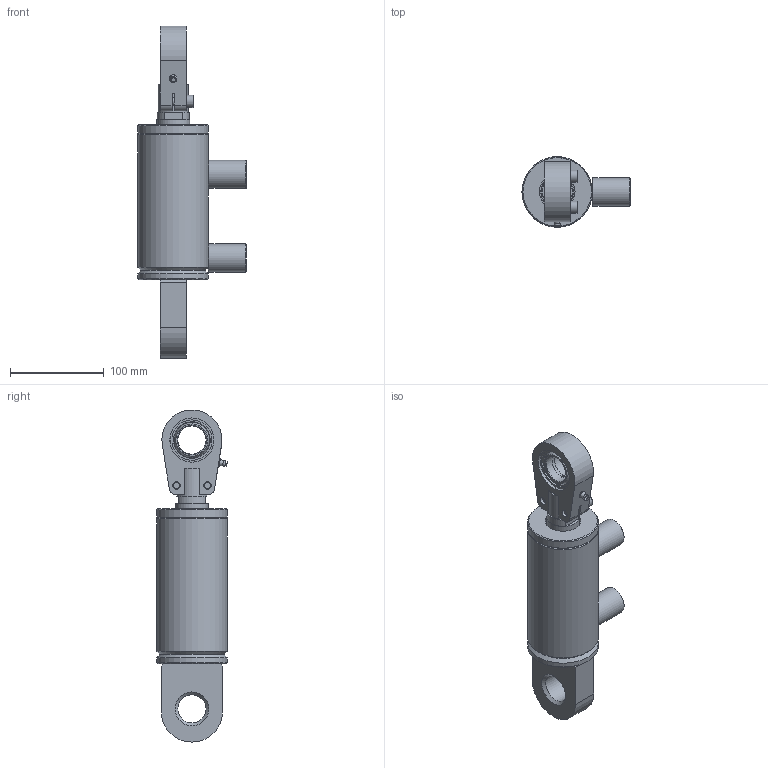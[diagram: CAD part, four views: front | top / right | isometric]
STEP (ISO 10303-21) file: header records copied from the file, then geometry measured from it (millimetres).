
FILE_DESCRIPTION(/* description */ (''),/* implementation_level */ '2;1');
FILE_NAME(/* name */ 'HC_A_63_35_50_OAMB.step',/* time_stamp */ '2023-06-11T19:50:20+03:00',/* author */ (''),/* organization */ (''),/* preprocessor_version */ 'ST-DEVELOPER v19.2',/* originating_system */ 'Autodesk Translation Framework v12.6.0.85',/* authorisation */ '');
FILE_SCHEMA (('AUTOMOTIVE_DESIGN { 1 0 10303 214 3 1 1 }'));
Length unit declared in the file: millimetre
Products named in the file (17): HC_A_63_35_50_ÖAMB_WEB; TAK_63_75; Ø63 x Ø75_HON_BORU__WEB; Bileşen1; Manşon_1_2; RMK_30; Ø35_K_MİL_WEB; Bileşen1_1; TDK_63_35; Bileşen1_2; RMV_30_GÜNCEL; inafag_gihrk30-do_aql6xce6znqv71fe0ns6e5y9m_01; inafag_gihrk30-do_aql6xce6znqv71fe0ns6e5y9m_02; inafag_gihrk30-do_aql6xce6znqv71fe0ns6e5y9m_03; inafag_gihrk30-do_aql6xce6znqv71fe0ns6e5y9m_04; inafag_gihrk30-do_aql6xce6znqv71fe0ns6e5y9m_05; inafag_gihrk30-do_aql6xce6znqv71fe0ns6e5y9m_06
Assembly tree (17 placements, depth 3):
  HC_A_63_35_50_ÖAMB_WEB
    TAK_63_75
    Ø63 x Ø75_HON_BORU__WEB
      Bileşen1
    Manşon_1_2  x2
    RMK_30
    Ø35_K_MİL_WEB
      Bileşen1_1
    TDK_63_35
      Bileşen1_2
    RMV_30_GÜNCEL
      inafag_gihrk30-do_aql6xce6znqv71fe0ns6e5y9m_01
      inafag_gihrk30-do_aql6xce6znqv71fe0ns6e5y9m_02
      inafag_gihrk30-do_aql6xce6znqv71fe0ns6e5y9m_03
      inafag_gihrk30-do_aql6xce6znqv71fe0ns6e5y9m_04
      inafag_gihrk30-do_aql6xce6znqv71fe0ns6e5y9m_05
      inafag_gihrk30-do_aql6xce6znqv71fe0ns6e5y9m_06
Bounding box: 115 x 75.17 x 353.5 mm (x, y, z)
Volume: 767359.3 mm3; surface area: 197355.2 mm2
Topology: 14 solids, 16 shells, 764 faces, 2024 edges, 1343 vertices
Faces by surface type: bspline 365, plane 273, cylinder 78, cone 34, torus 12, sphere 2
Full cylindrical faces by diameter (mm): 2.5 x4, 3 x2, 4 x1, 8 x7, 13 x2, 19 x2, 20.376 x1, 21 x1, 29.85 x1, 30 x5, 35 x3, 38 x1, 43 x1, 45 x1, 46.342 x1, 47 x5, 49 x2, 60 x1, 63 x2, 64 x4, 67.5 x1, 67.85 x1, 75 x3
Entity records: 35652 total; most frequent: CARTESIAN_POINT 18458, ORIENTED_EDGE 4014, DIRECTION 2404, EDGE_CURVE 2007, VERTEX_POINT 1333, LINE 938, VECTOR 938, EDGE_LOOP 846
